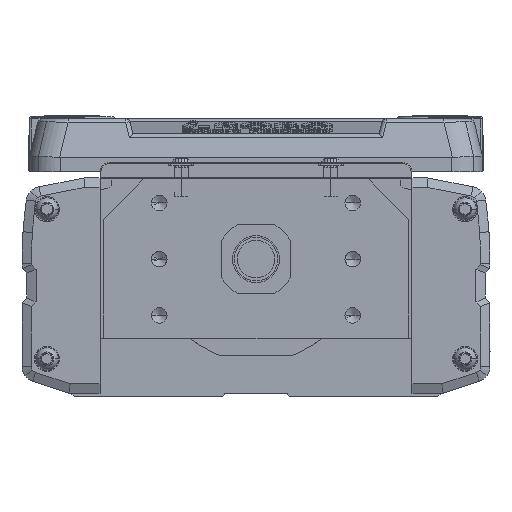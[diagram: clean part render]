
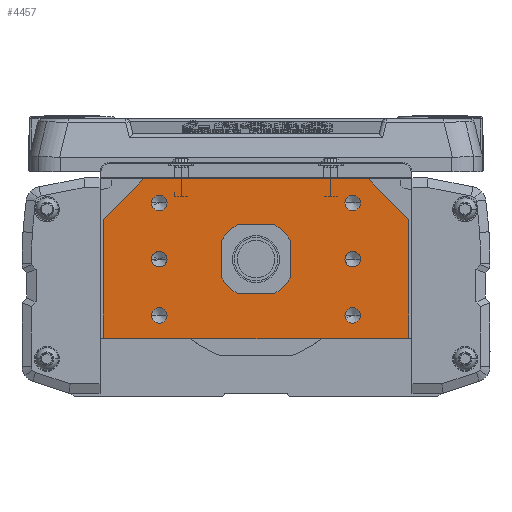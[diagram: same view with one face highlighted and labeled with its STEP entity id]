
A CAD part, left-side view. The second image highlights one B-rep face of the part: STEP entity #4457.
In plain terms, the highlighted planar face has unit normal (-1, 0, 0).
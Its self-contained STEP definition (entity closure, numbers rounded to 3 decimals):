
#4457=ADVANCED_FACE('',(#10326,#10327,#10328,#10329,#10330,#10331,#10332,#10333),#10334,.F.);
#10326=FACE_OUTER_BOUND('',#18299,.T.);
#10327=FACE_BOUND('',#18300,.T.);
#10328=FACE_BOUND('',#18301,.T.);
#10329=FACE_BOUND('',#18302,.T.);
#10330=FACE_BOUND('',#18303,.T.);
#10331=FACE_BOUND('',#18304,.T.);
#10332=FACE_BOUND('',#18305,.T.);
#10333=FACE_BOUND('',#18306,.T.);
#10334=PLANE('',#18307);
#18299=EDGE_LOOP('',(#31806,#31807,#31808,#31809,#31810,#31811,#31812,#31813));
#18300=EDGE_LOOP('',(#31814,#31815));
#18301=EDGE_LOOP('',(#31816,#31817));
#18302=EDGE_LOOP('',(#31818,#31819));
#18303=EDGE_LOOP('',(#31820,#31821));
#18304=EDGE_LOOP('',(#31822,#31823));
#18305=EDGE_LOOP('',(#31824,#31825));
#18306=EDGE_LOOP('',(#31826,#31827));
#18307=AXIS2_PLACEMENT_3D('',#31828,#31829,#31830);
#31806=ORIENTED_EDGE('',*,*,#46132,.F.);
#31807=ORIENTED_EDGE('',*,*,#49181,.F.);
#31808=ORIENTED_EDGE('',*,*,#49182,.F.);
#31809=ORIENTED_EDGE('',*,*,#44815,.F.);
#31810=ORIENTED_EDGE('',*,*,#44590,.F.);
#31811=ORIENTED_EDGE('',*,*,#47129,.F.);
#31812=ORIENTED_EDGE('',*,*,#49183,.F.);
#31813=ORIENTED_EDGE('',*,*,#47926,.F.);
#31814=ORIENTED_EDGE('',*,*,#46952,.T.);
#31815=ORIENTED_EDGE('',*,*,#44900,.T.);
#31816=ORIENTED_EDGE('',*,*,#49184,.T.);
#31817=ORIENTED_EDGE('',*,*,#49185,.T.);
#31818=ORIENTED_EDGE('',*,*,#49186,.T.);
#31819=ORIENTED_EDGE('',*,*,#49187,.T.);
#31820=ORIENTED_EDGE('',*,*,#49188,.T.);
#31821=ORIENTED_EDGE('',*,*,#49189,.T.);
#31822=ORIENTED_EDGE('',*,*,#49190,.T.);
#31823=ORIENTED_EDGE('',*,*,#48949,.T.);
#31824=ORIENTED_EDGE('',*,*,#49191,.T.);
#31825=ORIENTED_EDGE('',*,*,#49192,.T.);
#31826=ORIENTED_EDGE('',*,*,#47835,.F.);
#31827=ORIENTED_EDGE('',*,*,#49193,.F.);
#31828=CARTESIAN_POINT('',(0.,0.275,-2.548));
#31829=DIRECTION('',(1.0,0.,0.));
#31830=DIRECTION('',(0.,1.0,0.));
#44590=EDGE_CURVE('',#52781,#52783,#52784,.T.);
#44815=EDGE_CURVE('',#52783,#53184,#53185,.T.);
#44900=EDGE_CURVE('',#53332,#53330,#53333,.T.);
#46132=EDGE_CURVE('',#55497,#55498,#55499,.T.);
#46952=EDGE_CURVE('',#53330,#53332,#56878,.T.);
#47129=EDGE_CURVE('',#57157,#52781,#57160,.T.);
#47835=EDGE_CURVE('',#58272,#58267,#58274,.F.);
#47926=EDGE_CURVE('',#55498,#58410,#58411,.T.);
#48949=EDGE_CURVE('',#60001,#59999,#60002,.T.);
#49181=EDGE_CURVE('',#60359,#55497,#60360,.T.);
#49182=EDGE_CURVE('',#53184,#60359,#60361,.T.);
#49183=EDGE_CURVE('',#58410,#57157,#60362,.T.);
#49184=EDGE_CURVE('',#60363,#60364,#60365,.T.);
#49185=EDGE_CURVE('',#60364,#60363,#60366,.T.);
#49186=EDGE_CURVE('',#60367,#60368,#60369,.T.);
#49187=EDGE_CURVE('',#60368,#60367,#60370,.T.);
#49188=EDGE_CURVE('',#60371,#60372,#60373,.T.);
#49189=EDGE_CURVE('',#60372,#60371,#60374,.T.);
#49190=EDGE_CURVE('',#59999,#60001,#60375,.T.);
#49191=EDGE_CURVE('',#60376,#60377,#60378,.T.);
#49192=EDGE_CURVE('',#60377,#60376,#60379,.T.);
#49193=EDGE_CURVE('',#58267,#58272,#60380,.F.);
#52781=VERTEX_POINT('',#64808);
#52783=VERTEX_POINT('',#64811);
#52784=LINE('',#64812,#64813);
#53184=VERTEX_POINT('',#65366);
#53185=LINE('',#65367,#65368);
#53330=VERTEX_POINT('',#65544);
#53332=VERTEX_POINT('',#65547);
#53333=CIRCLE('',#65548,2.5);
#55497=VERTEX_POINT('',#68627);
#55498=VERTEX_POINT('',#68628);
#55499=LINE('',#68629,#68630);
#56878=CIRCLE('',#70488,2.5);
#57157=VERTEX_POINT('',#70959);
#57160=LINE('',#70963,#70964);
#58267=VERTEX_POINT('',#72510);
#58272=VERTEX_POINT('',#72516);
#58274=CIRCLE('',#72519,7.5);
#58410=VERTEX_POINT('',#72734);
#58411=LINE('',#72735,#72736);
#59999=VERTEX_POINT('',#75740);
#60001=VERTEX_POINT('',#75743);
#60002=CIRCLE('',#75744,2.5);
#60359=VERTEX_POINT('',#76251);
#60360=LINE('',#76252,#76253);
#60361=LINE('',#76254,#76255);
#60362=LINE('',#76256,#76257);
#60363=VERTEX_POINT('',#76258);
#60364=VERTEX_POINT('',#76259);
#60365=CIRCLE('',#76260,2.5);
#60366=CIRCLE('',#76261,2.5);
#60367=VERTEX_POINT('',#76262);
#60368=VERTEX_POINT('',#76263);
#60369=CIRCLE('',#76264,2.5);
#60370=CIRCLE('',#76265,2.5);
#60371=VERTEX_POINT('',#76266);
#60372=VERTEX_POINT('',#76267);
#60373=CIRCLE('',#76268,2.5);
#60374=CIRCLE('',#76269,2.5);
#60375=CIRCLE('',#76270,2.5);
#60376=VERTEX_POINT('',#76271);
#60377=VERTEX_POINT('',#76272);
#60378=CIRCLE('',#76273,2.5);
#60379=CIRCLE('',#76274,2.5);
#60380=CIRCLE('',#76275,7.5);
#64808=CARTESIAN_POINT('',(0.,-49.,-25.));
#64811=CARTESIAN_POINT('',(0.,-48.5,-25.5));
#64812=CARTESIAN_POINT('',(0.,-49.,-25.));
#64813=VECTOR('',#82718,10.0);
#65366=CARTESIAN_POINT('',(0.,48.5,-25.5));
#65367=CARTESIAN_POINT('',(0.,0.,-25.5));
#65368=VECTOR('',#83004,10.0);
#65544=CARTESIAN_POINT('',(0.,33.5,-18.));
#65547=CARTESIAN_POINT('',(0.,28.5,-18.));
#65548=AXIS2_PLACEMENT_3D('',#83142,#83143,#83144);
#68627=CARTESIAN_POINT('',(0.,49.,12.7));
#68628=CARTESIAN_POINT('',(0.,36.,25.7));
#68629=CARTESIAN_POINT('',(0.,37.381,24.319));
#68630=VECTOR('',#84921,10.);
#70488=AXIS2_PLACEMENT_3D('',#86298,#86299,#86300);
#70959=CARTESIAN_POINT('',(0.,-49.,12.7));
#70963=CARTESIAN_POINT('',(0.,-49.,-14.));
#70964=VECTOR('',#86519,10.0);
#72510=CARTESIAN_POINT('',(0.,-7.5,0.));
#72516=CARTESIAN_POINT('',(0.,7.5,0.));
#72519=AXIS2_PLACEMENT_3D('',#87469,#87470,#87471);
#72734=CARTESIAN_POINT('',(0.,-36.,25.7));
#72735=CARTESIAN_POINT('',(0.,34.5,25.7));
#72736=VECTOR('',#87596,10.0);
#75740=CARTESIAN_POINT('',(0.,33.5,0.));
#75743=CARTESIAN_POINT('',(0.,28.5,0.));
#75744=AXIS2_PLACEMENT_3D('',#88934,#88935,#88936);
#76251=CARTESIAN_POINT('',(0.,49.,-25.));
#76252=CARTESIAN_POINT('',(0.,49.,-25.));
#76253=VECTOR('',#89285,10.0);
#76254=CARTESIAN_POINT('',(0.,48.5,-25.5));
#76255=VECTOR('',#89286,10.0);
#76256=CARTESIAN_POINT('',(0.,-37.243,24.457));
#76257=VECTOR('',#89287,10.0);
#76258=CARTESIAN_POINT('',(0.,-33.5,-18.));
#76259=CARTESIAN_POINT('',(0.,-28.5,-18.));
#76260=AXIS2_PLACEMENT_3D('',#89288,#89289,#89290);
#76261=AXIS2_PLACEMENT_3D('',#89291,#89292,#89293);
#76262=CARTESIAN_POINT('',(0.,33.5,18.));
#76263=CARTESIAN_POINT('',(0.,28.5,18.));
#76264=AXIS2_PLACEMENT_3D('',#89294,#89295,#89296);
#76265=AXIS2_PLACEMENT_3D('',#89297,#89298,#89299);
#76266=CARTESIAN_POINT('',(0.,-33.5,18.));
#76267=CARTESIAN_POINT('',(0.,-28.5,18.));
#76268=AXIS2_PLACEMENT_3D('',#89300,#89301,#89302);
#76269=AXIS2_PLACEMENT_3D('',#89303,#89304,#89305);
#76270=AXIS2_PLACEMENT_3D('',#89306,#89307,#89308);
#76271=CARTESIAN_POINT('',(0.,-33.5,0.));
#76272=CARTESIAN_POINT('',(0.,-28.5,0.));
#76273=AXIS2_PLACEMENT_3D('',#89309,#89310,#89311);
#76274=AXIS2_PLACEMENT_3D('',#89312,#89313,#89314);
#76275=AXIS2_PLACEMENT_3D('',#89315,#89316,#89317);
#82718=DIRECTION('',(0.,0.707,-0.707));
#83004=DIRECTION('',(0.,1.0,0.));
#83142=CARTESIAN_POINT('',(0.,31.,-18.));
#83143=DIRECTION('',(1.0,0.,0.));
#83144=DIRECTION('',(0.,1.0,0.));
#84921=DIRECTION('',(0.,-0.707,0.707));
#86298=CARTESIAN_POINT('',(0.,31.,-18.));
#86299=DIRECTION('',(1.0,0.,0.));
#86300=DIRECTION('',(0.,1.0,0.));
#86519=DIRECTION('',(0.,0.,-1.0));
#87469=CARTESIAN_POINT('',(0.,0.,0.));
#87470=DIRECTION('',(1.0,0.,0.));
#87471=DIRECTION('',(0.,-1.0,0.));
#87596=DIRECTION('',(0.,-1.0,0.));
#88934=CARTESIAN_POINT('',(0.,31.,0.));
#88935=DIRECTION('',(1.0,0.,0.));
#88936=DIRECTION('',(0.,1.0,0.));
#89285=DIRECTION('',(0.,0.,1.0));
#89286=DIRECTION('',(0.,0.707,0.707));
#89287=DIRECTION('',(0.,-0.707,-0.707));
#89288=CARTESIAN_POINT('',(0.,-31.,-18.));
#89289=DIRECTION('',(1.0,0.,0.));
#89290=DIRECTION('',(0.,-1.0,0.));
#89291=CARTESIAN_POINT('',(0.,-31.,-18.));
#89292=DIRECTION('',(1.0,0.,0.));
#89293=DIRECTION('',(0.,-1.0,0.));
#89294=CARTESIAN_POINT('',(0.,31.,18.));
#89295=DIRECTION('',(1.0,0.,0.));
#89296=DIRECTION('',(0.,1.0,0.));
#89297=CARTESIAN_POINT('',(0.,31.,18.));
#89298=DIRECTION('',(1.0,0.,0.));
#89299=DIRECTION('',(0.,1.0,0.));
#89300=CARTESIAN_POINT('',(0.,-31.,18.));
#89301=DIRECTION('',(1.0,0.,0.));
#89302=DIRECTION('',(0.,-1.0,0.));
#89303=CARTESIAN_POINT('',(0.,-31.,18.));
#89304=DIRECTION('',(1.0,0.,0.));
#89305=DIRECTION('',(0.,-1.0,0.));
#89306=CARTESIAN_POINT('',(0.,31.,0.));
#89307=DIRECTION('',(1.0,0.,0.));
#89308=DIRECTION('',(0.,1.0,0.));
#89309=CARTESIAN_POINT('',(0.,-31.,0.));
#89310=DIRECTION('',(1.0,0.,0.));
#89311=DIRECTION('',(0.,-1.0,0.));
#89312=CARTESIAN_POINT('',(0.,-31.,0.));
#89313=DIRECTION('',(1.0,0.,0.));
#89314=DIRECTION('',(0.,-1.0,0.));
#89315=CARTESIAN_POINT('',(0.,0.,0.));
#89316=DIRECTION('',(1.0,0.,0.));
#89317=DIRECTION('',(0.,-1.0,0.));
